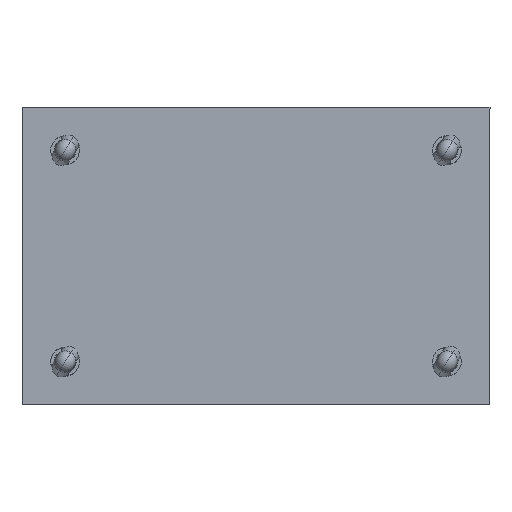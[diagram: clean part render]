
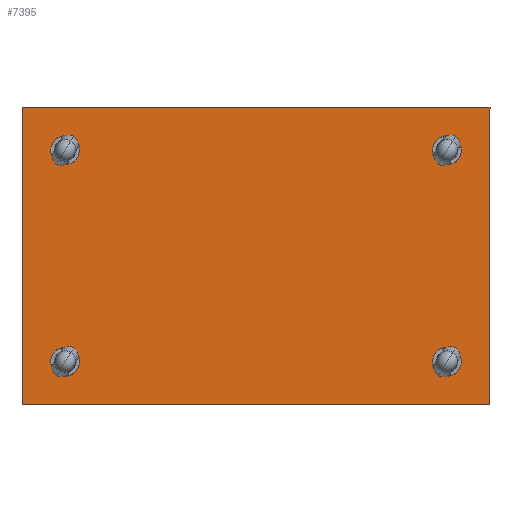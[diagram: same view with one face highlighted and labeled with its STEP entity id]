
A CAD part, front view. The second image highlights one B-rep face of the part: STEP entity #7395.
In plain terms, the highlighted planar face has unit normal (0, -1, 0).
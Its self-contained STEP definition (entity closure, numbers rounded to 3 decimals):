
#413 = EDGE_CURVE ( 'NONE', #13996, #9663, #6361, .T. ) ;
#702 = CARTESIAN_POINT ( 'NONE',  ( 44.294, 13.272, 34.682 ) ) ;
#720 = EDGE_LOOP ( 'NONE', ( #11420, #18383 ) ) ;
#1108 = EDGE_CURVE ( 'NONE', #8257, #16136, #18211, .T. ) ;
#1404 = DIRECTION ( 'NONE',  ( 0., -1., 0. ) ) ;
#2084 = ORIENTED_EDGE ( 'NONE', *, *, #19175, .F. ) ;
#2149 = EDGE_CURVE ( 'NONE', #21095, #15786, #8179, .T. ) ;
#2387 = CIRCLE ( 'NONE', #16128, 1.778 ) ;
#2408 = CARTESIAN_POINT ( 'NONE',  ( 46.072, 13.272, 34.682 ) ) ;
#2605 = DIRECTION ( 'NONE',  ( 1., 0., 0. ) ) ;
#2642 = ORIENTED_EDGE ( 'NONE', *, *, #10178, .F. ) ;
#2727 = CARTESIAN_POINT ( 'NONE',  ( 51.406, 13.272, 66.178 ) ) ;
#2802 = LINE ( 'NONE', #13243, #16011 ) ;
#2873 = CARTESIAN_POINT ( 'NONE',  ( 46.072, 13.272, 60.844 ) ) ;
#2888 = AXIS2_PLACEMENT_3D ( 'NONE', #20181, #20517, #2605 ) ;
#3117 = LINE ( 'NONE', #18924, #6537 ) ;
#3432 = AXIS2_PLACEMENT_3D ( 'NONE', #7054, #3614, #10652 ) ;
#3614 = DIRECTION ( 'NONE',  ( 0., -1., 0. ) ) ;
#3675 = ORIENTED_EDGE ( 'NONE', *, *, #17993, .F. ) ;
#3742 = EDGE_LOOP ( 'NONE', ( #2642, #17443 ) ) ;
#3749 = CARTESIAN_POINT ( 'NONE',  ( -1.172, 13.272, 34.682 ) ) ;
#4149 = CIRCLE ( 'NONE', #7843, 1.778 ) ;
#4232 = FACE_BOUND ( 'NONE', #3742, .T. ) ;
#4314 = VERTEX_POINT ( 'NONE', #9172 ) ;
#4659 = ORIENTED_EDGE ( 'NONE', *, *, #6036, .F. ) ;
#4834 = DIRECTION ( 'NONE',  ( 0., -1., 0. ) ) ;
#5102 = CIRCLE ( 'NONE', #2888, 1.778 ) ;
#5329 = VECTOR ( 'NONE', #12006, 1000. ) ;
#5599 = CARTESIAN_POINT ( 'NONE',  ( 47.85, 13.272, 60.844 ) ) ;
#5622 = EDGE_LOOP ( 'NONE', ( #5852, #3675 ) ) ;
#5852 = ORIENTED_EDGE ( 'NONE', *, *, #413, .F. ) ;
#6036 = EDGE_CURVE ( 'NONE', #15026, #12152, #3117, .T. ) ;
#6186 = PLANE ( 'NONE',  #14407 ) ;
#6361 = CIRCLE ( 'NONE', #3432, 1.778 ) ;
#6537 = VECTOR ( 'NONE', #17653, 1000. ) ;
#7054 = CARTESIAN_POINT ( 'NONE',  ( -1.172, 13.272, 60.844 ) ) ;
#7160 = CIRCLE ( 'NONE', #10105, 1.778 ) ;
#7338 = DIRECTION ( 'NONE',  ( 0., -1., 0. ) ) ;
#7383 = DIRECTION ( 'NONE',  ( 0., -1., 0. ) ) ;
#7395 = ADVANCED_FACE ( 'NONE', ( #8051, #13048, #4232, #7826, #11525 ), #6186, .F. ) ;
#7646 = CARTESIAN_POINT ( 'NONE',  ( 51.406, 13.272, 66.178 ) ) ;
#7826 = FACE_BOUND ( 'NONE', #5622, .T. ) ;
#7843 = AXIS2_PLACEMENT_3D ( 'NONE', #2408, #7383, #21709 ) ;
#8051 = FACE_BOUND ( 'NONE', #9169, .T. ) ;
#8058 = CARTESIAN_POINT ( 'NONE',  ( 51.406, 13.272, 66.178 ) ) ;
#8150 = AXIS2_PLACEMENT_3D ( 'NONE', #22314, #20143, #9917 ) ;
#8179 = LINE ( 'NONE', #15164, #12328 ) ;
#8257 = VERTEX_POINT ( 'NONE', #702 ) ;
#8577 = CARTESIAN_POINT ( 'NONE',  ( 0.606, 13.272, 60.844 ) ) ;
#9169 = EDGE_LOOP ( 'NONE', ( #12662, #2084 ) ) ;
#9172 = CARTESIAN_POINT ( 'NONE',  ( 44.294, 13.272, 60.844 ) ) ;
#9499 = VERTEX_POINT ( 'NONE', #5599 ) ;
#9663 = VERTEX_POINT ( 'NONE', #15532 ) ;
#9768 = DIRECTION ( 'NONE',  ( 0., 1., 0. ) ) ;
#9917 = DIRECTION ( 'NONE',  ( 1., 0., 0. ) ) ;
#10069 = DIRECTION ( 'NONE',  ( -1., 0., 0. ) ) ;
#10098 = EDGE_CURVE ( 'NONE', #15786, #15026, #18886, .T. ) ;
#10105 = AXIS2_PLACEMENT_3D ( 'NONE', #20605, #1404, #21066 ) ;
#10178 = EDGE_CURVE ( 'NONE', #17466, #12113, #2387, .T. ) ;
#10192 = EDGE_LOOP ( 'NONE', ( #4659, #22164, #22498, #16823 ) ) ;
#10652 = DIRECTION ( 'NONE',  ( 1., 0., 0. ) ) ;
#11420 = ORIENTED_EDGE ( 'NONE', *, *, #19823, .F. ) ;
#11525 = FACE_OUTER_BOUND ( 'NONE', #10192, .T. ) ;
#11701 = DIRECTION ( 'NONE',  ( 1., 0., 0. ) ) ;
#12006 = DIRECTION ( 'NONE',  ( 1., 0., 0. ) ) ;
#12113 = VERTEX_POINT ( 'NONE', #20997 ) ;
#12152 = VERTEX_POINT ( 'NONE', #21789 ) ;
#12328 = VECTOR ( 'NONE', #20762, 1000. ) ;
#12562 = DIRECTION ( 'NONE',  ( 1., 0., 0. ) ) ;
#12662 = ORIENTED_EDGE ( 'NONE', *, *, #19455, .F. ) ;
#13048 = FACE_BOUND ( 'NONE', #720, .T. ) ;
#13243 = CARTESIAN_POINT ( 'NONE',  ( 51.406, 13.272, 29.348 ) ) ;
#13996 = VERTEX_POINT ( 'NONE', #8577 ) ;
#14407 = AXIS2_PLACEMENT_3D ( 'NONE', #2727, #9768, #15144 ) ;
#14639 = EDGE_CURVE ( 'NONE', #12152, #21095, #2802, .T. ) ;
#15026 = VERTEX_POINT ( 'NONE', #7646 ) ;
#15033 = AXIS2_PLACEMENT_3D ( 'NONE', #2873, #15420, #22427 ) ;
#15144 = DIRECTION ( 'NONE',  ( -1., 0., 0. ) ) ;
#15164 = CARTESIAN_POINT ( 'NONE',  ( -6.506, 13.272, 66.178 ) ) ;
#15420 = DIRECTION ( 'NONE',  ( 0., -1., 0. ) ) ;
#15427 = CIRCLE ( 'NONE', #21007, 1.778 ) ;
#15532 = CARTESIAN_POINT ( 'NONE',  ( -2.95, 13.272, 60.844 ) ) ;
#15786 = VERTEX_POINT ( 'NONE', #21047 ) ;
#16011 = VECTOR ( 'NONE', #10069, 1000. ) ;
#16128 = AXIS2_PLACEMENT_3D ( 'NONE', #3749, #7338, #12562 ) ;
#16136 = VERTEX_POINT ( 'NONE', #19279 ) ;
#16823 = ORIENTED_EDGE ( 'NONE', *, *, #14639, .F. ) ;
#17443 = ORIENTED_EDGE ( 'NONE', *, *, #20207, .F. ) ;
#17466 = VERTEX_POINT ( 'NONE', #21085 ) ;
#17653 = DIRECTION ( 'NONE',  ( 0., 0., -1. ) ) ;
#17993 = EDGE_CURVE ( 'NONE', #9663, #13996, #7160, .T. ) ;
#18211 = CIRCLE ( 'NONE', #8150, 1.778 ) ;
#18383 = ORIENTED_EDGE ( 'NONE', *, *, #1108, .F. ) ;
#18886 = LINE ( 'NONE', #8058, #5329 ) ;
#18924 = CARTESIAN_POINT ( 'NONE',  ( 51.406, 13.272, 66.178 ) ) ;
#19136 = CIRCLE ( 'NONE', #15033, 1.778 ) ;
#19175 = EDGE_CURVE ( 'NONE', #4314, #9499, #19136, .T. ) ;
#19279 = CARTESIAN_POINT ( 'NONE',  ( 47.85, 13.272, 34.682 ) ) ;
#19455 = EDGE_CURVE ( 'NONE', #9499, #4314, #15427, .T. ) ;
#19823 = EDGE_CURVE ( 'NONE', #16136, #8257, #4149, .T. ) ;
#20143 = DIRECTION ( 'NONE',  ( 0., -1., 0. ) ) ;
#20181 = CARTESIAN_POINT ( 'NONE',  ( -1.172, 13.272, 34.682 ) ) ;
#20207 = EDGE_CURVE ( 'NONE', #12113, #17466, #5102, .T. ) ;
#20517 = DIRECTION ( 'NONE',  ( 0., -1., 0. ) ) ;
#20605 = CARTESIAN_POINT ( 'NONE',  ( -1.172, 13.272, 60.844 ) ) ;
#20762 = DIRECTION ( 'NONE',  ( 0., 0., 1. ) ) ;
#20997 = CARTESIAN_POINT ( 'NONE',  ( -2.95, 13.272, 34.682 ) ) ;
#21007 = AXIS2_PLACEMENT_3D ( 'NONE', #22547, #4834, #11701 ) ;
#21047 = CARTESIAN_POINT ( 'NONE',  ( -6.506, 13.272, 66.178 ) ) ;
#21066 = DIRECTION ( 'NONE',  ( 1., 0., 0. ) ) ;
#21085 = CARTESIAN_POINT ( 'NONE',  ( 0.606, 13.272, 34.682 ) ) ;
#21095 = VERTEX_POINT ( 'NONE', #22263 ) ;
#21709 = DIRECTION ( 'NONE',  ( 1., 0., 0. ) ) ;
#21789 = CARTESIAN_POINT ( 'NONE',  ( 51.406, 13.272, 29.348 ) ) ;
#22164 = ORIENTED_EDGE ( 'NONE', *, *, #10098, .F. ) ;
#22263 = CARTESIAN_POINT ( 'NONE',  ( -6.506, 13.272, 29.348 ) ) ;
#22314 = CARTESIAN_POINT ( 'NONE',  ( 46.072, 13.272, 34.682 ) ) ;
#22427 = DIRECTION ( 'NONE',  ( 1., 0., 0. ) ) ;
#22498 = ORIENTED_EDGE ( 'NONE', *, *, #2149, .F. ) ;
#22547 = CARTESIAN_POINT ( 'NONE',  ( 46.072, 13.272, 60.844 ) ) ;
